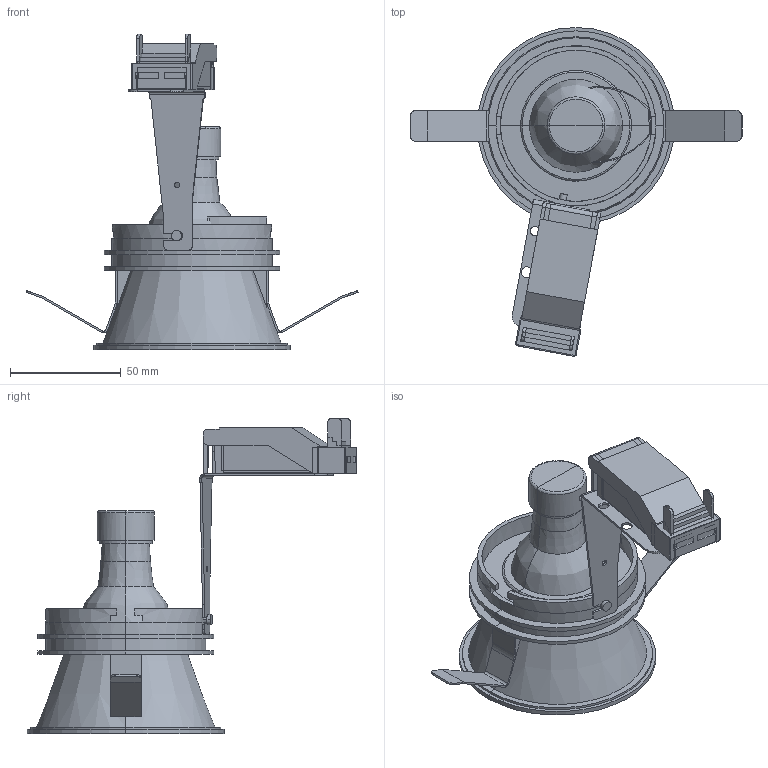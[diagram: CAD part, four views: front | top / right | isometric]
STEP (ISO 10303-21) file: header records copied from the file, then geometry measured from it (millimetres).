
FILE_DESCRIPTION(/* description */ (''),/* implementation_level */ '2;1');
FILE_NAME(/* name */ 'C:\Users\Franco Sartori E\Documents\FARO\DUPLICADO\Modelos\01_Digitalizados\2021\TRADING\0_FRESH\03_Publicación\02200502.stp',/* time_stamp */ '2020-12-29T11:33:49+01:00',/* author */ ('Franco Sartori E'),/* organization */ (''),/* preprocessor_version */ 'ST-DEVELOPER v18.1',/* originating_system */ 'AutoCAD Mechanical',/* authorisation */ '');
FILE_SCHEMA (('AUTOMOTIVE_DESIGN { 1 0 10303 214 3 1 1 }'));
Length unit declared in the file: millimetre
Products named in the file (3): Product; FamilyGeomCombination_379347-_3D_; FamilyGeomCombination_379384-_3D_
Assembly tree (2 placements, depth 2):
  Product
    FamilyGeomCombination_379347-_3D_
    FamilyGeomCombination_379384-_3D_
Bounding box: 150.04 x 148.88 x 142.6 mm (x, y, z)
Volume: 123736.2 mm3; surface area: 83220.5 mm2
Topology: 19 solids, 26 shells, 364 faces, 998 edges, 650 vertices
Faces by surface type: plane 252, cylinder 88, cone 14, bspline 6, torus 4
Entity records: 12450 total; most frequent: CARTESIAN_POINT 3154, DIRECTION 1870, ORIENTED_EDGE 1836, EDGE_CURVE 998, LINE 728, VECTOR 728, VERTEX_POINT 650, AXIS2_PLACEMENT_3D 571
